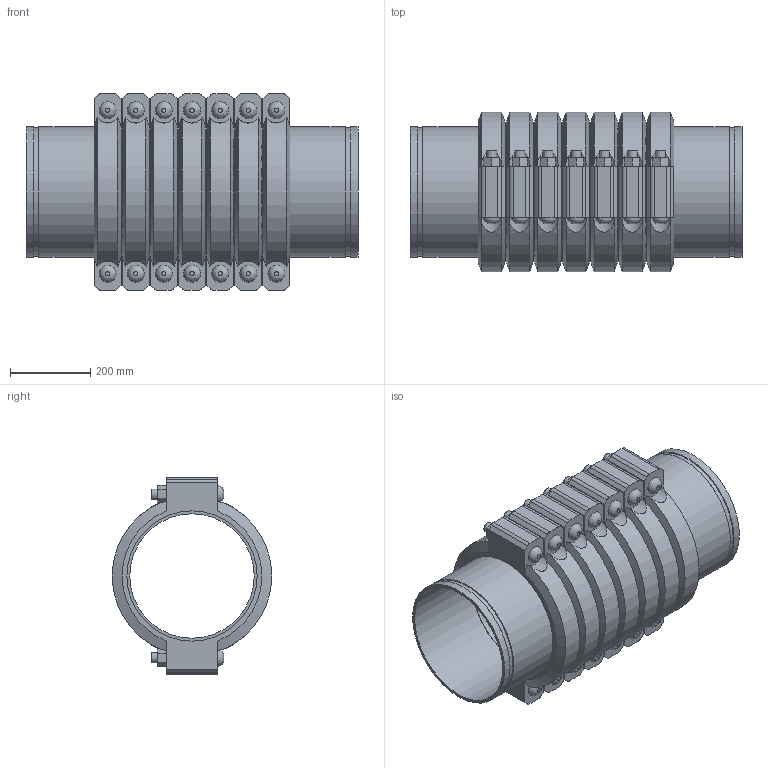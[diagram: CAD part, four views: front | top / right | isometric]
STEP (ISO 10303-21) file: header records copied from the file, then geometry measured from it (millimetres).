
FILE_DESCRIPTION(/* description */ ('VIC EXPANSION JOINT 7 COUPLINGS COMPRESSED STYLE 155 (OGS)','CAx-IF Rec.Pracs.---Representation and Presentation of Product Manufacturing Information (PMI)---4.0---2014-10-13'),/* implementation_level */ '2;1');
FILE_NAME(/* name */ 'C:\Users\kkamble\AppData\Roaming\Autodesk\ApplicationPlugins\Victaulic.Temp\A262\Victaulic_IPS_Expansion Joint_Compressed_7 Couplings_Style 155 (OGS)_12 (300).stp',/* time_stamp */ '2021-06-27T00:34:36+02:00',/* author */ ('kkamble'),/* organization */ ('Victaulic'),/* preprocessor_version */ 'ST-DEVELOPER v17.2',/* originating_system */ 'Autodesk Inventor 2019',/* authorisation */ '');
FILE_SCHEMA (('AP242_MANAGED_MODEL_BASED_3D_ENGINEERING_MIM_LF { 1 0 10303 442 1 1 4 }'));
Length unit declared in the file: inch
Products named in the file (4): 155-12.0; Nipple-12.0; Nipple-12.0_1; 077-7 Coup-12.0
Assembly tree (15 placements, depth 2):
  155-12.0
    Nipple-12.0  x2
    Nipple-12.0_1  x6
    077-7 Coup-12.0  x7
Bounding box: 825.5 x 397 x 488.95 mm (x, y, z)
Volume: 28993649.8 mm3; surface area: 4008036.7 mm2
Topology: 15 solids, 29 shells, 495 faces, 1213 edges, 850 vertices
Faces by surface type: plane 286, cylinder 167, cone 28, bspline 14
Full cylindrical faces by diameter (mm): 25.4 x28, 27.432 x14, 309.677 x8, 318.287 x16, 323.85 x31
Entity records: 2995 total; most frequent: CARTESIAN_POINT 649, DIRECTION 467, ORIENTED_EDGE 398, EDGE_CURVE 199, AXIS2_PLACEMENT_3D 190, VERTEX_POINT 142, EDGE_LOOP 105, CIRCLE 92
